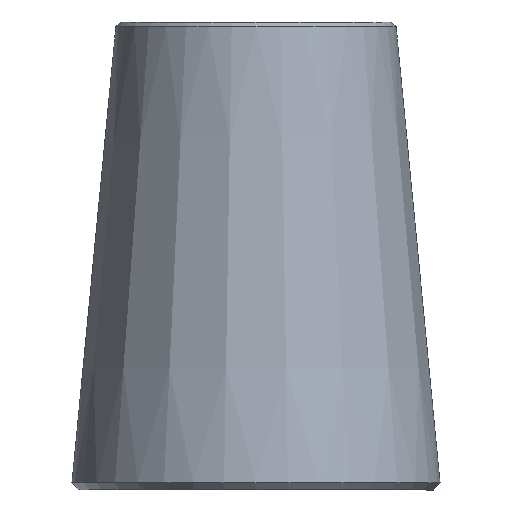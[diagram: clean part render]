
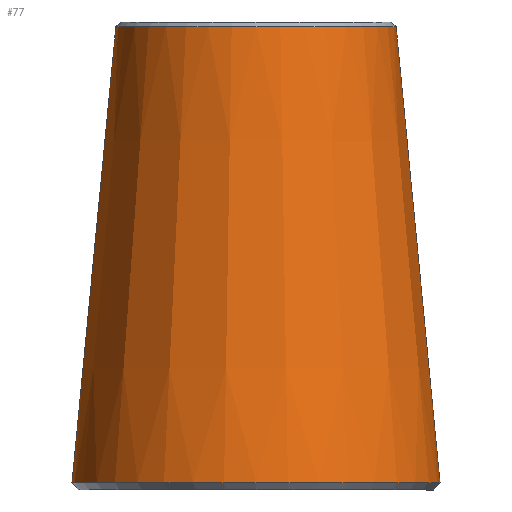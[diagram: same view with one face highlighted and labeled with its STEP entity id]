
A CAD part, left-side view. The second image highlights one B-rep face of the part: STEP entity #77.
In plain terms, the highlighted conical face has half-angle 5.5 degrees and reference radius 65.853 mm.
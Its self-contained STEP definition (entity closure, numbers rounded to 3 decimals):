
#20=FACE_BOUND('',#34,.T.);
#25=FACE_OUTER_BOUND('',#33,.T.);
#33=EDGE_LOOP('',(#63));
#34=EDGE_LOOP('',(#64));
#44=CIRCLE('',#87,74.712);
#45=CIRCLE('',#89,56.897);
#50=VERTEX_POINT('',#130);
#51=VERTEX_POINT('',#133);
#56=EDGE_CURVE('',#50,#50,#44,.T.);
#57=EDGE_CURVE('',#51,#51,#45,.T.);
#63=ORIENTED_EDGE('',*,*,#57,.F.);
#64=ORIENTED_EDGE('',*,*,#56,.F.);
#74=CONICAL_SURFACE('',#88,65.853,5.5);
#77=ADVANCED_FACE('',(#25,#20),#74,.T.);
#87=AXIS2_PLACEMENT_3D('',#131,#104,#105);
#88=AXIS2_PLACEMENT_3D('',#132,#106,#107);
#89=AXIS2_PLACEMENT_3D('',#134,#108,#109);
#104=DIRECTION('center_axis',(0.,0.,
-1.));
#105=DIRECTION('ref_axis',(0.,1.,0.));
#106=DIRECTION('center_axis',(0.,0.,-1.));
#107=DIRECTION('ref_axis',(0.,-1.,0.));
#108=DIRECTION('center_axis',(0.,0.,1.));
#109=DIRECTION('ref_axis',(0.,1.,0.));
#130=CARTESIAN_POINT('',(0.,-74.712,2.986));
#131=CARTESIAN_POINT('Origin',(0.,0.,2.986));
#132=CARTESIAN_POINT('Origin',(0.,0.,95.));
#133=CARTESIAN_POINT('',(0.,-56.897,188.009));
#134=CARTESIAN_POINT('Origin',(0.,0.,
188.009));
